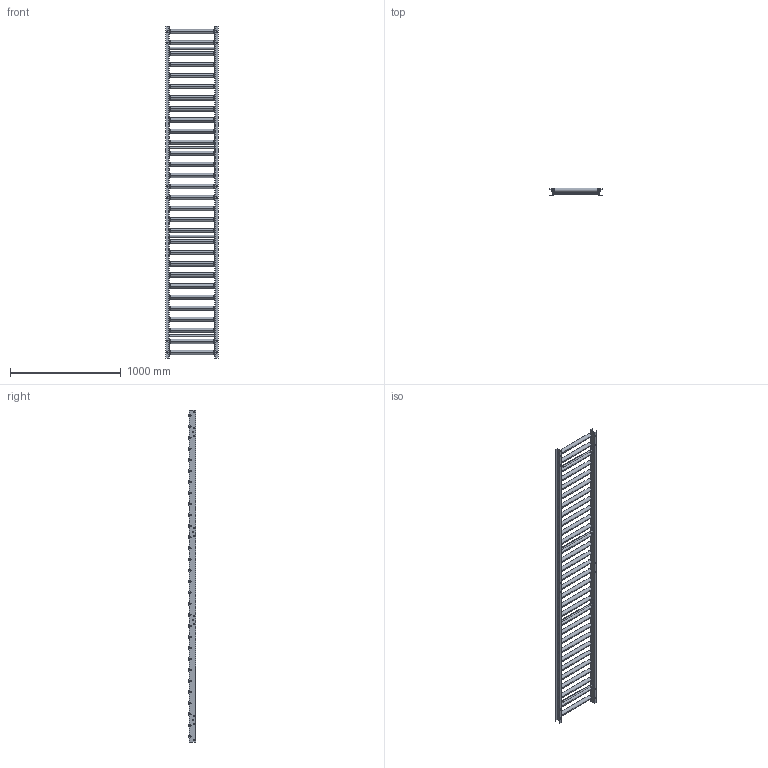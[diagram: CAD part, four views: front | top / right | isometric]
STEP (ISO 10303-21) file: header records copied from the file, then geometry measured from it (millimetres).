
FILE_DESCRIPTION (( 'STEP AP203' ), '1' );
FILE_NAME ('R-3812P-01.STEP', '2012-10-28T05:04:52', ( '' ), ( '' ), '', '', '' );
FILE_SCHEMA (( 'CONFIG_CONTROL_DESIGN' ));
Length unit declared in the file: millimetre
Products named in the file (5): R-3812P-01; roller; stay; frame2; frame1
Assembly tree (36 placements, depth 2):
  R-3812P-01
    frame1
    frame2
    stay  x4
    roller  x30
Bounding box: 475 x 67.05 x 3000 mm (x, y, z)
Volume: 15730383.6 mm3; surface area: 3049967.4 mm2
Topology: 96 solids, 96 shells, 1462 faces, 3178 edges, 2020 vertices
Faces by surface type: cylinder 742, plane 448, cone 152, torus 120
Entity records: 12379 total; most frequent: DIRECTION 2034, CARTESIAN_POINT 2005, ORIENTED_EDGE 1736, EDGE_CURVE 868, AXIS2_PLACEMENT_3D 823, VERTEX_POINT 574, EDGE_LOOP 522, CIRCLE 472
